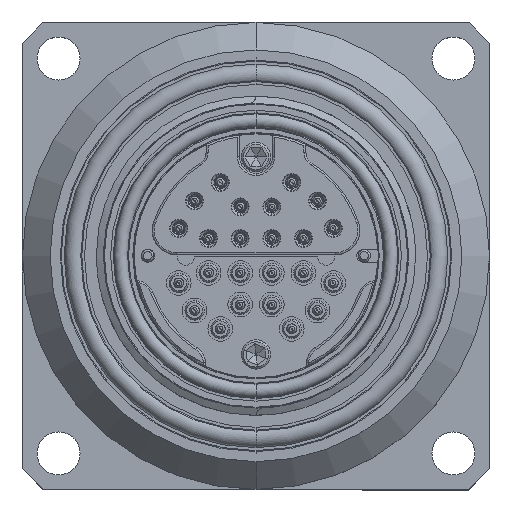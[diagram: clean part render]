
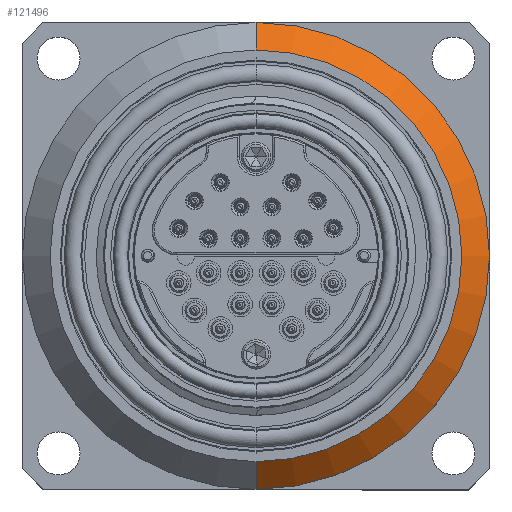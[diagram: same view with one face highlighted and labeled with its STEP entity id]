
A CAD part, top view. The second image highlights one B-rep face of the part: STEP entity #121496.
In plain terms, the highlighted conical face has half-angle 45 degrees and reference radius 30.035 mm.
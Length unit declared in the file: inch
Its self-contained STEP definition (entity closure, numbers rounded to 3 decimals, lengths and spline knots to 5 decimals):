
#12711 = EDGE_CURVE ( 'NONE', #47238, #21620, #44632, .T. ) ;
#16832 = EDGE_LOOP ( 'NONE', ( #54306, #44241, #89369, #83609 ) ) ;
#17167 = DIRECTION ( 'NONE',  ( 0., 1., 0. ) ) ;
#18329 = CIRCLE ( 'NONE', #104756, 1.1825 ) ;
#19721 = DIRECTION ( 'NONE',  ( 0., 0., -1. ) ) ;
#20874 = AXIS2_PLACEMENT_3D ( 'NONE', #107509, #19721, #129465 ) ;
#21264 = DIRECTION ( 'NONE',  ( 0., 0., -1. ) ) ;
#21620 = VERTEX_POINT ( 'NONE', #124226 ) ;
#32132 = FACE_OUTER_BOUND ( 'NONE', #16832, .T. ) ;
#36372 = CARTESIAN_POINT ( 'NONE',  ( 0., 1.0425, -0.56222 ) ) ;
#37209 = VECTOR ( 'NONE', #57715, 39.37008 ) ;
#44241 = ORIENTED_EDGE ( 'NONE', *, *, #111814, .T. ) ;
#44632 = CIRCLE ( 'NONE', #105286, 1.0425 ) ;
#47238 = VERTEX_POINT ( 'NONE', #36372 ) ;
#52420 = CARTESIAN_POINT ( 'NONE',  ( 0., 1.1825, -0.70222 ) ) ;
#54306 = ORIENTED_EDGE ( 'NONE', *, *, #12711, .T. ) ;
#57715 = DIRECTION ( 'NONE',  ( 0., -0.707, -0.707 ) ) ;
#63199 = DIRECTION ( 'NONE',  ( 0., 0., -1. ) ) ;
#63302 = EDGE_CURVE ( 'NONE', #47238, #86108, #87156, .T. ) ;
#76846 = CARTESIAN_POINT ( 'NONE',  ( 0., 1.1825, -0.70222 ) ) ;
#78935 = LINE ( 'NONE', #133869, #37209 ) ;
#79178 = CONICAL_SURFACE ( 'NONE', #20874, 1.1825, 0.785 ) ;
#80769 = VECTOR ( 'NONE', #144156, 39.37008 ) ;
#83609 = ORIENTED_EDGE ( 'NONE', *, *, #63302, .F. ) ;
#86108 = VERTEX_POINT ( 'NONE', #52420 ) ;
#87156 = LINE ( 'NONE', #76846, #80769 ) ;
#89369 = ORIENTED_EDGE ( 'NONE', *, *, #101567, .F. ) ;
#94382 = VERTEX_POINT ( 'NONE', #108201 ) ;
#98759 = CARTESIAN_POINT ( 'NONE',  ( 0., 0., -0.56222 ) ) ;
#100928 = DIRECTION ( 'NONE',  ( 0., 1., 0. ) ) ;
#101567 = EDGE_CURVE ( 'NONE', #86108, #94382, #18329, .T. ) ;
#104756 = AXIS2_PLACEMENT_3D ( 'NONE', #117351, #63199, #17167 ) ;
#105286 = AXIS2_PLACEMENT_3D ( 'NONE', #98759, #21264, #100928 ) ;
#107509 = CARTESIAN_POINT ( 'NONE',  ( 0., 0., -0.70222 ) ) ;
#108201 = CARTESIAN_POINT ( 'NONE',  ( 0., -1.1825, -0.70222 ) ) ;
#111814 = EDGE_CURVE ( 'NONE', #21620, #94382, #78935, .T. ) ;
#117351 = CARTESIAN_POINT ( 'NONE',  ( 0., 0., -0.70222 ) ) ;
#121496 = ADVANCED_FACE ( 'NONE', ( #32132 ), #79178, .T. ) ;
#124226 = CARTESIAN_POINT ( 'NONE',  ( 0., -1.0425, -0.56222 ) ) ;
#129465 = DIRECTION ( 'NONE',  ( 0., 1., 0. ) ) ;
#133869 = CARTESIAN_POINT ( 'NONE',  ( 0., -1.1825, -0.70222 ) ) ;
#144156 = DIRECTION ( 'NONE',  ( 0., 0.707, -0.707 ) ) ;
